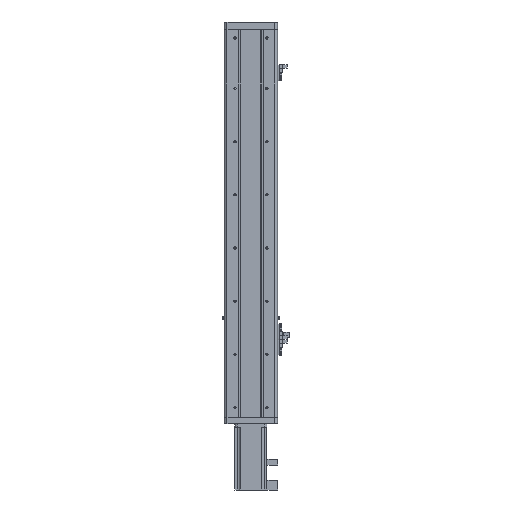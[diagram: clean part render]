
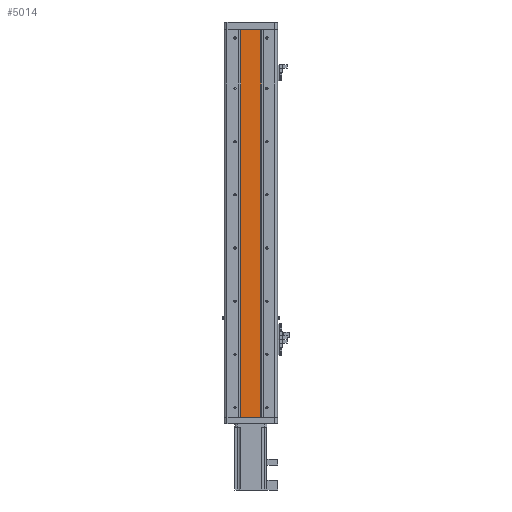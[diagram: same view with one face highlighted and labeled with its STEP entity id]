
A CAD part, front view. The second image highlights one B-rep face of the part: STEP entity #5014.
In plain terms, the highlighted planar face has unit normal (0, -1, 0).
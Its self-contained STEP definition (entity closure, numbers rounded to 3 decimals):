
#4823 = VERTEX_POINT ( 'NONE', #25622 ) ;
#4824 = ORIENTED_EDGE ( 'NONE', *, *, #4825, .T. ) ;
#4825 = EDGE_CURVE ( 'NONE', #5007, #4843, #25619, .T. ) ;
#4842 = ORIENTED_EDGE ( 'NONE', *, *, #5009, .F. ) ;
#4843 = VERTEX_POINT ( 'NONE', #25500 ) ;
#4906 = EDGE_CURVE ( 'NONE', #4823, #4843, #21181, .T. ) ;
#4910 = ORIENTED_EDGE ( 'NONE', *, *, #4906, .F. ) ;
#5007 = VERTEX_POINT ( 'NONE', #21631 ) ;
#5009 = EDGE_CURVE ( 'NONE', #5007, #5010, #21630, .T. ) ;
#5010 = VERTEX_POINT ( 'NONE', #21626 ) ;
#5014 = ADVANCED_FACE ( 'NONE', ( #21620 ), #21770, .F. ) ;
#5015 = EDGE_LOOP ( 'NONE', ( #5016, #4842, #4824, #4910 ) ) ;
#5016 = ORIENTED_EDGE ( 'NONE', *, *, #5017, .F. ) ;
#5017 = EDGE_CURVE ( 'NONE', #5010, #4823, #21765, .T. ) ;
#21178 = DIRECTION ( 'NONE',  ( 0., 0., 1. ) ) ;
#21179 = VECTOR ( 'NONE', #21178, 1000. ) ;
#21180 = CARTESIAN_POINT ( 'NONE',  ( -25.17, -29.672, 728. ) ) ;
#21181 = LINE ( 'NONE', #21180, #21179 ) ;
#21620 = FACE_OUTER_BOUND ( 'NONE', #5015, .T. ) ;
#21626 = CARTESIAN_POINT ( 'NONE',  ( 12.63, -29.672, 0. ) ) ;
#21627 = DIRECTION ( 'NONE',  ( 0., 0., -1. ) ) ;
#21628 = VECTOR ( 'NONE', #21627, 1000. ) ;
#21629 = CARTESIAN_POINT ( 'NONE',  ( 12.63, -29.672, 728. ) ) ;
#21630 = LINE ( 'NONE', #21629, #21628 ) ;
#21631 = CARTESIAN_POINT ( 'NONE',  ( 12.63, -29.672, 728. ) ) ;
#21762 = DIRECTION ( 'NONE',  ( -1., 0., 0. ) ) ;
#21763 = VECTOR ( 'NONE', #21762, 1000. ) ;
#21764 = CARTESIAN_POINT ( 'NONE',  ( -45.27, -29.672, 0. ) ) ;
#21765 = LINE ( 'NONE', #21764, #21763 ) ;
#21766 = DIRECTION ( 'NONE',  ( -1., 0., 0. ) ) ;
#21767 = DIRECTION ( 'NONE',  ( 0., 1., 0. ) ) ;
#21768 = CARTESIAN_POINT ( 'NONE',  ( -51.27, -29.672, 0. ) ) ;
#21769 = AXIS2_PLACEMENT_3D ( 'NONE', #21768, #21767, #21766 ) ;
#21770 = PLANE ( 'NONE',  #21769 ) ;
#25500 = CARTESIAN_POINT ( 'NONE',  ( -25.17, -29.672, 728. ) ) ;
#25565 = DIRECTION ( 'NONE',  ( -1., 0., 0. ) ) ;
#25616 = CARTESIAN_POINT ( 'NONE',  ( -51.27, -29.672, 728. ) ) ;
#25619 = LINE ( 'NONE', #25616, #25626 ) ;
#25622 = CARTESIAN_POINT ( 'NONE',  ( -25.17, -29.672, 0. ) ) ;
#25626 = VECTOR ( 'NONE', #25565, 1000. ) ;
